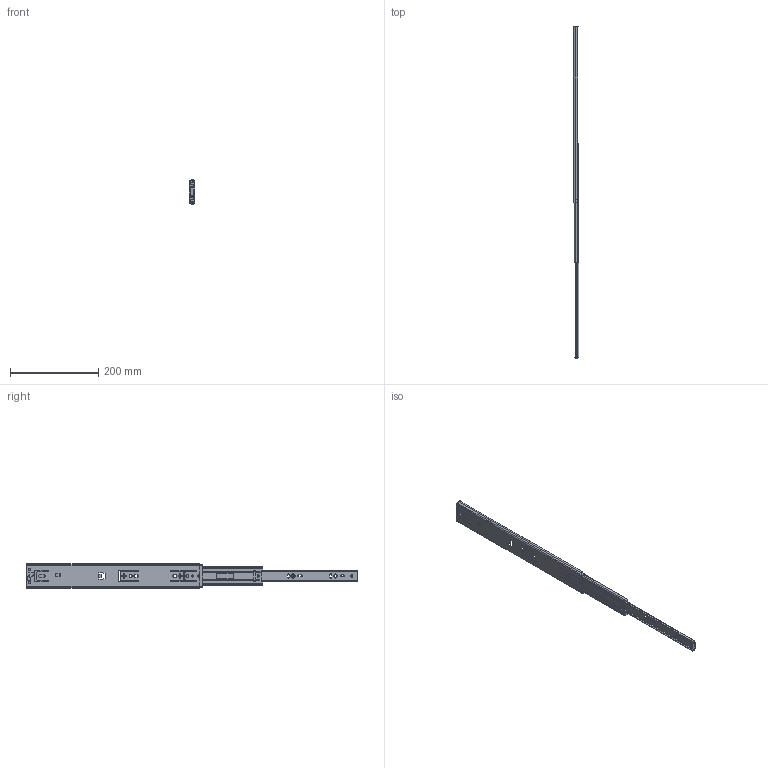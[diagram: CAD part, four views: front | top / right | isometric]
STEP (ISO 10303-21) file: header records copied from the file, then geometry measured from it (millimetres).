
FILE_DESCRIPTION( ( 'Unknown' ), '1' );
FILE_NAME( 'C:/Users/rd30/Desktop/85A01-400-Open.stp', 'Unknown', ( 'Unknown' ), ( 'Unknown' ), 'PSStep 14.0', 'Unknown', ' ' );
FILE_SCHEMA( ( 'AUTOMOTIVE_DESIGN { 1 0 10303 214 1 1 1 1 }' ) );
Length unit declared in the file: millimetre
Products named in the file (8): P10-366-3-1; P10-367-130429; 本體(卡式)20130423-\X2\4FEE6A21571\X0\; Assem1; 85A01P11-02-400; 85A01P21-03-400; 85A01P30-04-400; 85A01P30-04-B
Assembly tree (7 placements, depth 3):
  Assem1
    85A01P11-02-400
    85A01P21-03-400
    85A01P30-04-400
    85A01P30-04-B
    P10-366-3-1
      P10-367-130429
      本體(卡式)20130423-\X2\4FEE6A21571\X0\
Bounding box: 12.6 x 751 x 55.37 mm (x, y, z)
Volume: 151774.1 mm3; surface area: 127149.6 mm2
Topology: 6 solids, 6 shells, 610 faces, 1740 edges, 1140 vertices
Faces by surface type: plane 300, cylinder 258, cone 24, torus 24, bspline 2, sphere 2
Full cylindrical faces by diameter (mm): 1.4 x1, 3 x1, 3.2 x1, 4.6 x1, 5 x4, 5.1 x1, 5.5 x1, 6.25 x1, 6.4 x2
Entity records: 25308 total; most frequent: CARTESIAN_POINT 3817, DIRECTION 3454, ORIENTED_EDGE 3422, EDGE_CURVE 1711, AXIS2_PLACEMENT_3D 1194, VERTEX_POINT 1129, LINE 1066, VECTOR 1066
